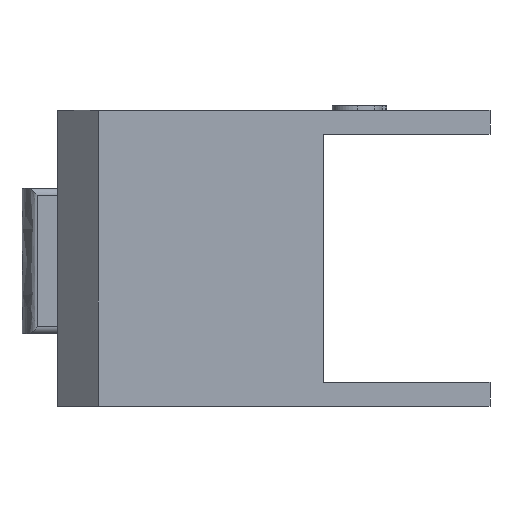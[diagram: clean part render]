
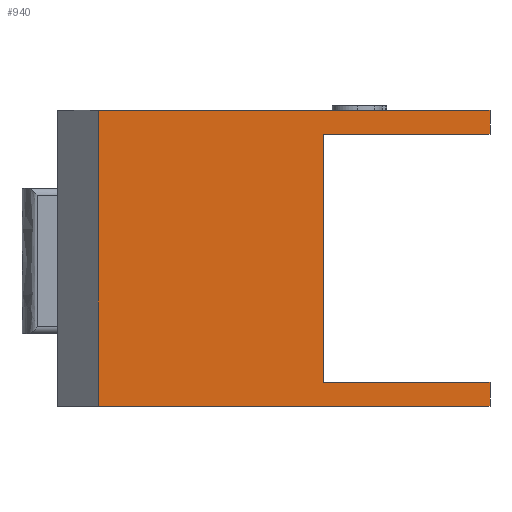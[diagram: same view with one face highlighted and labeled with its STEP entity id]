
A CAD part, left-side view. The second image highlights one B-rep face of the part: STEP entity #940.
In plain terms, the highlighted planar face has unit normal (-1, 0, 0).
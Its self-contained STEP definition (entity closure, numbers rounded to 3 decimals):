
#28 = VERTEX_POINT ( 'NONE', #3125 ) ;
#51 = VECTOR ( 'NONE', #2558, 1000. ) ;
#119 = PLANE ( 'NONE',  #3648 ) ;
#271 = CARTESIAN_POINT ( 'NONE',  ( -8.09, -2.641, 0.5 ) ) ;
#341 = ORIENTED_EDGE ( 'NONE', *, *, #1265, .T. ) ;
#392 = ORIENTED_EDGE ( 'NONE', *, *, #3599, .F. ) ;
#496 = EDGE_LOOP ( 'NONE', ( #1644, #3679, #2254, #2720, #341, #3477, #392, #1275 ) ) ;
#565 = CARTESIAN_POINT ( 'NONE',  ( -8.09, 5.569, 0. ) ) ;
#690 = VERTEX_POINT ( 'NONE', #565 ) ;
#812 = CARTESIAN_POINT ( 'NONE',  ( -8.09, -2.641, 5.7 ) ) ;
#850 = VECTOR ( 'NONE', #1099, 1000. ) ;
#940 = ADVANCED_FACE ( 'NONE', ( #4082 ), #119, .F. ) ;
#943 = VECTOR ( 'NONE', #1471, 1000. ) ;
#954 = LINE ( 'NONE', #1973, #1487 ) ;
#1043 = LINE ( 'NONE', #3725, #943 ) ;
#1076 = DIRECTION ( 'NONE',  ( 0., 0., -1. ) ) ;
#1099 = DIRECTION ( 'NONE',  ( 0., -1., 0. ) ) ;
#1110 = LINE ( 'NONE', #3748, #850 ) ;
#1265 = EDGE_CURVE ( 'NONE', #3714, #690, #1043, .T. ) ;
#1275 = ORIENTED_EDGE ( 'NONE', *, *, #3654, .T. ) ;
#1276 = LINE ( 'NONE', #2512, #1696 ) ;
#1363 = CARTESIAN_POINT ( 'NONE',  ( -8.09, -2.641, 6.2 ) ) ;
#1471 = DIRECTION ( 'NONE',  ( 0., 0., -1. ) ) ;
#1487 = VECTOR ( 'NONE', #2631, 1000. ) ;
#1639 = VECTOR ( 'NONE', #1076, 1000. ) ;
#1644 = ORIENTED_EDGE ( 'NONE', *, *, #3454, .T. ) ;
#1696 = VECTOR ( 'NONE', #1943, 1000. ) ;
#1809 = VERTEX_POINT ( 'NONE', #2910 ) ;
#1891 = CARTESIAN_POINT ( 'NONE',  ( -8.09, 5.569, 6.2 ) ) ;
#1942 = CARTESIAN_POINT ( 'NONE',  ( -8.09, 0.859, 5.7 ) ) ;
#1943 = DIRECTION ( 'NONE',  ( 0., 0., 1. ) ) ;
#1973 = CARTESIAN_POINT ( 'NONE',  ( -8.09, -2.641, 6.2 ) ) ;
#1981 = EDGE_CURVE ( 'NONE', #28, #2941, #3790, .T. ) ;
#2076 = CARTESIAN_POINT ( 'NONE',  ( -8.09, 0.859, 0.5 ) ) ;
#2240 = VECTOR ( 'NONE', #4007, 1000. ) ;
#2254 = ORIENTED_EDGE ( 'NONE', *, *, #3656, .F. ) ;
#2503 = LINE ( 'NONE', #2076, #2240 ) ;
#2512 = CARTESIAN_POINT ( 'NONE',  ( -8.09, 0.859, 5.7 ) ) ;
#2558 = DIRECTION ( 'NONE',  ( 0., -1., 0. ) ) ;
#2605 = DIRECTION ( 'NONE',  ( 1., 0., 0. ) ) ;
#2616 = LINE ( 'NONE', #3243, #51 ) ;
#2631 = DIRECTION ( 'NONE',  ( 0., 0., -1. ) ) ;
#2650 = DIRECTION ( 'NONE',  ( 0., -1., 0. ) ) ;
#2720 = ORIENTED_EDGE ( 'NONE', *, *, #2949, .F. ) ;
#2896 = VERTEX_POINT ( 'NONE', #3135 ) ;
#2910 = CARTESIAN_POINT ( 'NONE',  ( -8.09, -2.641, 6.2 ) ) ;
#2941 = VERTEX_POINT ( 'NONE', #812 ) ;
#2949 = EDGE_CURVE ( 'NONE', #3714, #1809, #2616, .T. ) ;
#2982 = DIRECTION ( 'NONE',  ( 0., 1., 0. ) ) ;
#3021 = VERTEX_POINT ( 'NONE', #271 ) ;
#3120 = VECTOR ( 'NONE', #2650, 1000. ) ;
#3125 = CARTESIAN_POINT ( 'NONE',  ( -8.09, 0.859, 5.7 ) ) ;
#3135 = CARTESIAN_POINT ( 'NONE',  ( -8.09, 0.859, 0.5 ) ) ;
#3243 = CARTESIAN_POINT ( 'NONE',  ( -8.09, 5.569, 6.2 ) ) ;
#3340 = CARTESIAN_POINT ( 'NONE',  ( -8.09, -2.641, 0. ) ) ;
#3435 = CARTESIAN_POINT ( 'NONE',  ( -8.09, 5.569, 6.2 ) ) ;
#3454 = EDGE_CURVE ( 'NONE', #2896, #28, #1276, .T. ) ;
#3477 = ORIENTED_EDGE ( 'NONE', *, *, #3923, .T. ) ;
#3599 = EDGE_CURVE ( 'NONE', #3021, #3646, #954, .T. ) ;
#3646 = VERTEX_POINT ( 'NONE', #3340 ) ;
#3648 = AXIS2_PLACEMENT_3D ( 'NONE', #1891, #2605, #2982 ) ;
#3654 = EDGE_CURVE ( 'NONE', #3021, #2896, #2503, .T. ) ;
#3656 = EDGE_CURVE ( 'NONE', #1809, #2941, #3980, .T. ) ;
#3679 = ORIENTED_EDGE ( 'NONE', *, *, #1981, .T. ) ;
#3714 = VERTEX_POINT ( 'NONE', #3435 ) ;
#3725 = CARTESIAN_POINT ( 'NONE',  ( -8.09, 5.569, 6.2 ) ) ;
#3748 = CARTESIAN_POINT ( 'NONE',  ( -8.09, 5.569, 0. ) ) ;
#3790 = LINE ( 'NONE', #1942, #3120 ) ;
#3923 = EDGE_CURVE ( 'NONE', #690, #3646, #1110, .T. ) ;
#3980 = LINE ( 'NONE', #1363, #1639 ) ;
#4007 = DIRECTION ( 'NONE',  ( 0., 1., 0. ) ) ;
#4082 = FACE_OUTER_BOUND ( 'NONE', #496, .T. ) ;
